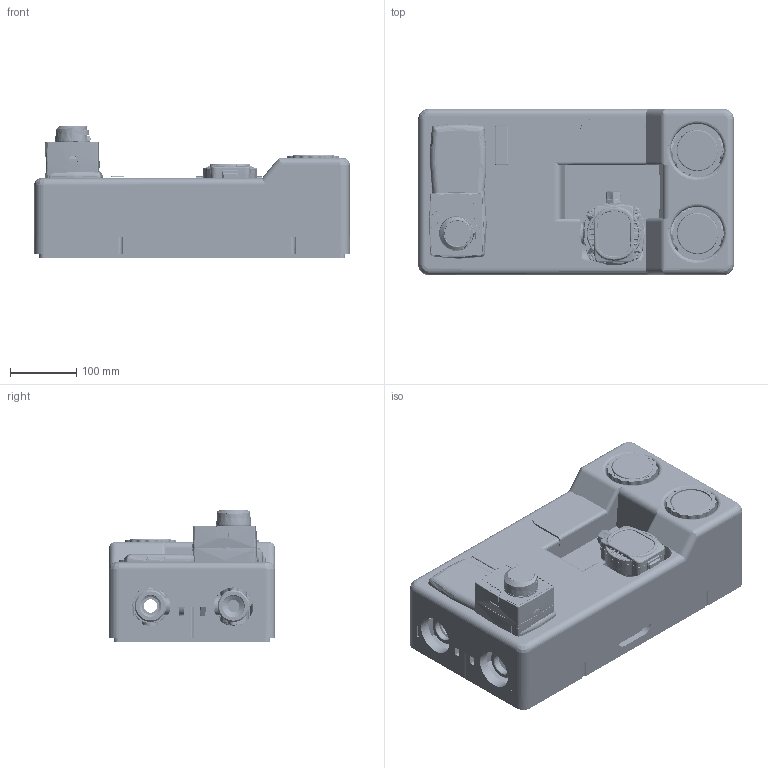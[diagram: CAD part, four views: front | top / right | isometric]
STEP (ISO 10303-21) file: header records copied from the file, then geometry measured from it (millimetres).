
FILE_DESCRIPTION (( 'STEP AP214' ), '1' );
FILE_NAME ('7730120.STEP', '2022-10-24T07:26:31', ( '' ), ( '' ), 'SwSTEP 2.0', 'SolidWorks 2022', '' );
FILE_SCHEMA (( 'AUTOMOTIVE_DESIGN' ));
Length unit declared in the file: millimetre
Products named in the file (162): STEG_20; Scheibe_24_Scheiben_0; Geh_X_E4use Kugelhahn m. Flansch DN 20_3; OBERTEIL Lu 05 00 410613_05 00 410613; 05 00 410237__X_DCberwurfmutter G1 1_2_3; 0_0_0_3; DRUCK; 05 00 410412_05 00 410112; Doming-Schild _AFRISO__852 000 2161; 05 00 32 10_Pumpenkugelhahn VL vorm.; M9120001; Scheibe_24; 05 00 32 11_ R_X_FCcklaufstrang PrimoTherm vorm.; AHP180_korpus; 900085 5010_Flakoschr. ISO7045 M5x10-4,8-Z; M9120005; HANDRAD_05 00 410222_2; 907380 0001_FKS-DIN7380_2-10.9-TX20-(A2K)-M4X12_0_4; STEG_2; STEG_23; AHP180_gora; 05 01 000399_Lagerdeckel VS; STEG_22; STEG_3; INNEN; 05 01 000474_T-St_X_FCck DN25 vorm.; Druck vorne; Baugruppe dreh kvs verstellung_Baugruppe; STEGE; 05 00 410237__X_DCberwurfmutter G1 1_2_4; ISO 4032-M8-10_Sechskantmuttern_0; 90014581 5012_SHR-ISO14581-08.8-TX25-(A2K)-M5X12_0; AFRISO; 0_0_0_9; 05 00 41 20_Bi-Th. NG63 0-120_X_B0C rot_0; Halter oben; 05 00 410411_05 00 410411; M9120010; Einleger 2_2_05 00 410617; BLECHLASCHE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
Assembly tree (164 placements, depth 10):
  7730120
    PrimoTherm 180-2 DN25 3WM-SM Vario_77300
      R_X_DCCKLAUFSTRANG
        05 00 32 11_ R_X_FCcklaufstrang PrimoTherm vorm.
          05 00 410412_05 00 410112
            Einschraubk_X_F6rper_05 00 410483
            Geh_X_E4use Kugelhahn m. Flansch DN 20
          HANDRAD_05 00 410222
            HANDRAD_05 00 410222
            STEGE
            0_0_0
              0_0_0_2
                STEG
                STEG_2
                STEG_3
                0_0_0_3
                  STEG_4
                  STEG_5
              0_0_0_4
                STEG_6
                STEG_7
                STEG_8
                STEG_9
              0_0_0_5
                STEG_10
                STEG_11
                STEG_12
                STEG_13
            Tauchh_X_FClse_05 00 410223
            ZAHNSCHEIBE_906797 8400
            Mitnahme-Blech_05 00 410240
              BLECHLASCHE
          Mutter DIN 3292 - G 1 1_2 NE_05 00 410237
          DICHTUNG 11_2_760 330 2080
          Distanzrohr G1 1_2 x 282mm_05 00 000249
        05 00 41 87_Bi-Th NG63 0-120_X_B0C blau RSK
          zifferblatt_Baugruppe_0
            DECKGLAS
            ZIFFERBLATT
            ZEIGER
            Bedruckung02
            Ring-blau
            Bedruckung
              Bedruckung
              Afriso Logo
        05 00 410237__X_DCberwurfmutter G1 1_2
        760 000 0162_Flachdichtung 44x32x2 F391
      VORLAUFSTRANG
        760 000 0162_Flachdichtung 44x32x2 F 391
        760 000 0162_Flachdichtung 44x32x2 F391_2
        760 000 0162_Flachdichtung 44x32x2 F391_3
        05 00 41 20_Bi-Th. NG63 0-120_X_B0C rot_0
          DECKGLAS_2
          ZIFFERBLATT_2
          ZEIGER_2
          DRUCK
        05 00 410237__X_DCberwurfmutter G1 1_2_2
        05 00 410237__X_DCberwurfmutter G1 1_2_3
        05 00 410237__X_DCberwurfmutter G1 1_2_4
        05 00 410505_Pumpenkugelhahn G1 1_2xFlansch
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Bounding box: 475 x 250.01 x 198.52 mm (x, y, z)
Volume: 8752489.2 mm3; surface area: 1678334.8 mm2
Topology: 256 solids, 263 shells, 16022 faces, 40916 edges, 25190 vertices
Faces by surface type: plane 4923, cylinder 3930, bspline 3605, cone 1531, torus 1142, sphere 891
Entity records: 957924 total; most frequent: CARTESIAN_POINT 438208, ORIENTED_EDGE 80436, DIRECTION 56045, EDGE_CURVE 40222, VERTEX_POINT 25078, AXIS2_PLACEMENT_3D 21065, B_SPLINE_CURVE_WITH_KNOTS 16673, EDGE_LOOP 16632
